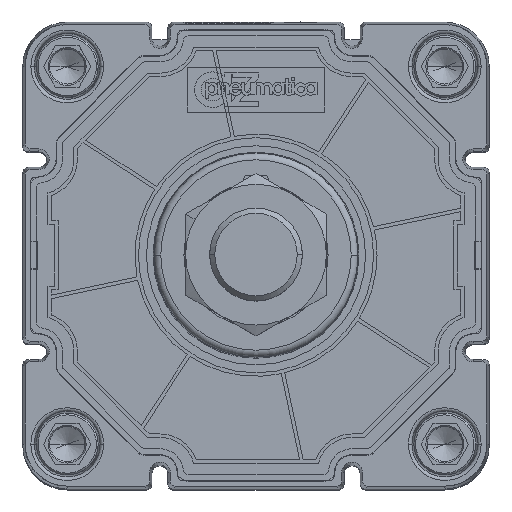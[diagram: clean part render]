
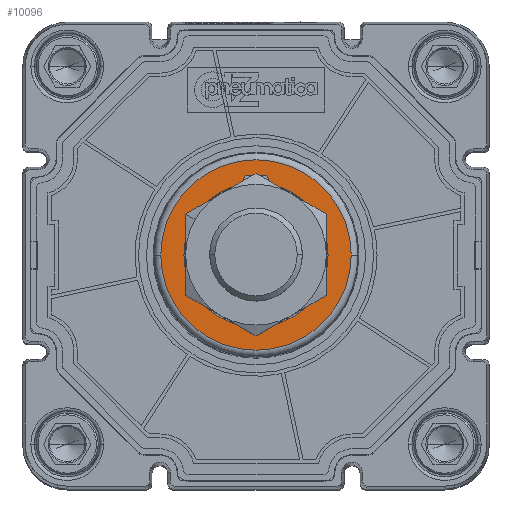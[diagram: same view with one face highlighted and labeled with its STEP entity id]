
A CAD part, top view. The second image highlights one B-rep face of the part: STEP entity #10096.
In plain terms, the highlighted planar face has unit normal (0, 0, 1) as drawn and (0, 0, -1) by its records, which use the part's own axes.
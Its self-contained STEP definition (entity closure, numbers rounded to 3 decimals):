
#749 = LINE ( 'NONE', #65159, #3294 ) ;
#2377 = ORIENTED_EDGE ( 'NONE', *, *, #54105, .F. ) ;
#2458 = ORIENTED_EDGE ( 'NONE', *, *, #48111, .F. ) ;
#2813 = DIRECTION ( 'NONE',  ( 0., 0., -1. ) ) ;
#3294 = VECTOR ( 'NONE', #53802, 1000. ) ;
#3501 = AXIS2_PLACEMENT_3D ( 'NONE', #30862, #2813, #8385 ) ;
#3878 = EDGE_CURVE ( 'NONE', #14945, #33777, #5401, .T. ) ;
#5079 = CIRCLE ( 'NONE', #62407, 21. ) ;
#5401 = CIRCLE ( 'NONE', #28634, 1. ) ;
#6106 = CARTESIAN_POINT ( 'NONE',  ( -2.5, 23.2, -82.7 ) ) ;
#8385 = DIRECTION ( 'NONE',  ( 1., 0., 0. ) ) ;
#8754 = VERTEX_POINT ( 'NONE', #38211 ) ;
#10006 = CIRCLE ( 'NONE', #69512, 27.738 ) ;
#10014 = CARTESIAN_POINT ( 'NONE',  ( -3.5, 22.2, -82.7 ) ) ;
#10096 = ADVANCED_FACE ( 'NONE', ( #26437, #32348 ), #30700, .F. ) ;
#11632 = VERTEX_POINT ( 'NONE', #59339 ) ;
#12150 = EDGE_CURVE ( 'NONE', #49641, #43757, #32341, .T. ) ;
#13392 = CARTESIAN_POINT ( 'NONE',  ( 0., 0., -82.7 ) ) ;
#14945 = VERTEX_POINT ( 'NONE', #31362 ) ;
#18804 = EDGE_LOOP ( 'NONE', ( #24004, #25387, #31418, #26084, #64926, #62013, #2458, #41147 ) ) ;
#19663 = CARTESIAN_POINT ( 'NONE',  ( -27.738, 0., -82.7 ) ) ;
#20957 = AXIS2_PLACEMENT_3D ( 'NONE', #13392, #29216, #62212 ) ;
#21518 = VERTEX_POINT ( 'NONE', #50404 ) ;
#21610 = VECTOR ( 'NONE', #26364, 1000. ) ;
#22341 = CIRCLE ( 'NONE', #20957, 21. ) ;
#24004 = ORIENTED_EDGE ( 'NONE', *, *, #65428, .T. ) ;
#24026 = AXIS2_PLACEMENT_3D ( 'NONE', #51908, #24610, #31010 ) ;
#24491 = CARTESIAN_POINT ( 'NONE',  ( 3.5, 22.2, -82.7 ) ) ;
#24610 = DIRECTION ( 'NONE',  ( 0., 0., 1. ) ) ;
#25387 = ORIENTED_EDGE ( 'NONE', *, *, #12150, .T. ) ;
#25463 = EDGE_CURVE ( 'NONE', #43757, #21518, #5079, .T. ) ;
#26084 = ORIENTED_EDGE ( 'NONE', *, *, #26105, .F. ) ;
#26105 = EDGE_CURVE ( 'NONE', #33777, #21518, #49990, .T. ) ;
#26364 = DIRECTION ( 'NONE',  ( 0., 1., 0. ) ) ;
#26375 = CARTESIAN_POINT ( 'NONE',  ( 3.5, 22.2, -82.7 ) ) ;
#26437 = FACE_OUTER_BOUND ( 'NONE', #47986, .T. ) ;
#28104 = EDGE_CURVE ( 'NONE', #33127, #14945, #749, .T. ) ;
#28557 = VERTEX_POINT ( 'NONE', #68406 ) ;
#28634 = AXIS2_PLACEMENT_3D ( 'NONE', #59740, #32702, #49107 ) ;
#29216 = DIRECTION ( 'NONE',  ( 0., 0., 1. ) ) ;
#30700 = PLANE ( 'NONE',  #65408 ) ;
#30862 = CARTESIAN_POINT ( 'NONE',  ( -2.5, 22.2, -82.7 ) ) ;
#31010 = DIRECTION ( 'NONE',  ( 1., 0., 0. ) ) ;
#31157 = CIRCLE ( 'NONE', #3501, 1. ) ;
#31362 = CARTESIAN_POINT ( 'NONE',  ( 2.5, 23.2, -82.7 ) ) ;
#31418 = ORIENTED_EDGE ( 'NONE', *, *, #25463, .T. ) ;
#32341 = CIRCLE ( 'NONE', #47209, 21. ) ;
#32348 = FACE_BOUND ( 'NONE', #18804, .T. ) ;
#32684 = LINE ( 'NONE', #10014, #21610 ) ;
#32702 = DIRECTION ( 'NONE',  ( 0., 0., -1. ) ) ;
#32744 = ORIENTED_EDGE ( 'NONE', *, *, #63592, .F. ) ;
#33127 = VERTEX_POINT ( 'NONE', #6106 ) ;
#33777 = VERTEX_POINT ( 'NONE', #24491 ) ;
#35980 = DIRECTION ( 'NONE',  ( 0., 0., 1. ) ) ;
#36432 = VECTOR ( 'NONE', #53193, 1000. ) ;
#36448 = CARTESIAN_POINT ( 'NONE',  ( 21., 0., -82.7 ) ) ;
#38211 = CARTESIAN_POINT ( 'NONE',  ( -3.5, 20.706, -82.7 ) ) ;
#39016 = CARTESIAN_POINT ( 'NONE',  ( -21., 0., -82.7 ) ) ;
#41147 = ORIENTED_EDGE ( 'NONE', *, *, #59436, .F. ) ;
#42005 = VERTEX_POINT ( 'NONE', #19663 ) ;
#43757 = VERTEX_POINT ( 'NONE', #36448 ) ;
#44591 = DIRECTION ( 'NONE',  ( 1., 0., 0. ) ) ;
#44862 = DIRECTION ( 'NONE',  ( 0., 0., 1. ) ) ;
#47178 = CARTESIAN_POINT ( 'NONE',  ( 0., 0., -82.7 ) ) ;
#47209 = AXIS2_PLACEMENT_3D ( 'NONE', #54085, #63043, #56897 ) ;
#47986 = EDGE_LOOP ( 'NONE', ( #2377, #32744 ) ) ;
#48111 = EDGE_CURVE ( 'NONE', #28557, #33127, #31157, .T. ) ;
#49107 = DIRECTION ( 'NONE',  ( -1., 0., 0. ) ) ;
#49641 = VERTEX_POINT ( 'NONE', #39016 ) ;
#49990 = LINE ( 'NONE', #26375, #36432 ) ;
#50404 = CARTESIAN_POINT ( 'NONE',  ( 3.5, 20.706, -82.7 ) ) ;
#51908 = CARTESIAN_POINT ( 'NONE',  ( 0., 0., -82.7 ) ) ;
#53193 = DIRECTION ( 'NONE',  ( 0., -1., 0. ) ) ;
#53802 = DIRECTION ( 'NONE',  ( 1., 0., 0. ) ) ;
#54085 = CARTESIAN_POINT ( 'NONE',  ( 0., 0., -82.7 ) ) ;
#54105 = EDGE_CURVE ( 'NONE', #11632, #42005, #59260, .T. ) ;
#55231 = CARTESIAN_POINT ( 'NONE',  ( 0., 0., -82.7 ) ) ;
#56897 = DIRECTION ( 'NONE',  ( 1., 0., 0. ) ) ;
#57984 = CARTESIAN_POINT ( 'NONE',  ( 0., 27.738, -82.7 ) ) ;
#58226 = DIRECTION ( 'NONE',  ( 0., 0., 1. ) ) ;
#58460 = DIRECTION ( 'NONE',  ( 1., 0., 0. ) ) ;
#59260 = CIRCLE ( 'NONE', #24026, 27.738 ) ;
#59339 = CARTESIAN_POINT ( 'NONE',  ( 27.738, 0., -82.7 ) ) ;
#59436 = EDGE_CURVE ( 'NONE', #8754, #28557, #32684, .T. ) ;
#59740 = CARTESIAN_POINT ( 'NONE',  ( 2.5, 22.2, -82.7 ) ) ;
#62013 = ORIENTED_EDGE ( 'NONE', *, *, #28104, .F. ) ;
#62212 = DIRECTION ( 'NONE',  ( 1., 0., 0. ) ) ;
#62407 = AXIS2_PLACEMENT_3D ( 'NONE', #55231, #44862, #44591 ) ;
#63043 = DIRECTION ( 'NONE',  ( 0., 0., 1. ) ) ;
#63592 = EDGE_CURVE ( 'NONE', #42005, #11632, #10006, .T. ) ;
#64926 = ORIENTED_EDGE ( 'NONE', *, *, #3878, .F. ) ;
#65159 = CARTESIAN_POINT ( 'NONE',  ( 2.5, 23.2, -82.7 ) ) ;
#65408 = AXIS2_PLACEMENT_3D ( 'NONE', #57984, #58226, #58460 ) ;
#65428 = EDGE_CURVE ( 'NONE', #8754, #49641, #22341, .T. ) ;
#68216 = DIRECTION ( 'NONE',  ( 1., 0., 0. ) ) ;
#68406 = CARTESIAN_POINT ( 'NONE',  ( -3.5, 22.2, -82.7 ) ) ;
#69512 = AXIS2_PLACEMENT_3D ( 'NONE', #47178, #35980, #68216 ) ;
